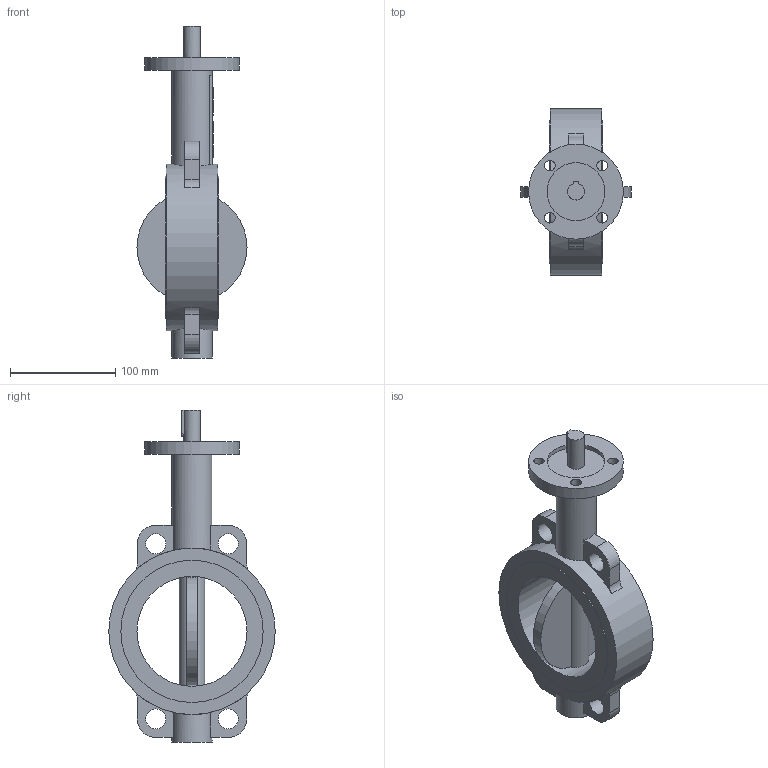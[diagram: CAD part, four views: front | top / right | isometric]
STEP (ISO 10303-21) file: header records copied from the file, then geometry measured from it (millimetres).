
FILE_DESCRIPTION(('STEP AP203'), '1');
FILE_NAME('Çàòâîð 017W.Z(ñòàëü) DN100 PN10_16 áåç èñï. ìåõ-ìà', '', ('UNSPECIFIED'), ('UNSPECIFIED'), 'ASCON STEP Converter 1.6', 'ASCON Math Kernel', '');
FILE_SCHEMA(('CONFIG_CONTROL_DESIGN'));
Length unit declared in the file: millimetre
Bounding box: 104.4 x 158 x 315 mm (x, y, z)
Volume: 902397.2 mm3; surface area: 125366.8 mm2
Topology: 1 solids, 1 shells, 598 faces, 1706 edges, 1137 vertices
Faces by surface type: cylinder 413, plane 185
Full cylindrical faces by diameter (mm): 10 x4, 15.9 x1, 19 x4, 24 x1, 38 x2, 55 x1, 90 x1, 104.4 x1, 135 x2, 158 x1
Entity records: 25235 total; most frequent: CARTESIAN_POINT 4012, DIRECTION 3711, ORIENTED_EDGE 3376, EDGE_CURVE 1688, AXIS2_PLACEMENT_3D 1437, VERTEX_POINT 1137, CIRCLE 838, LINE 837
